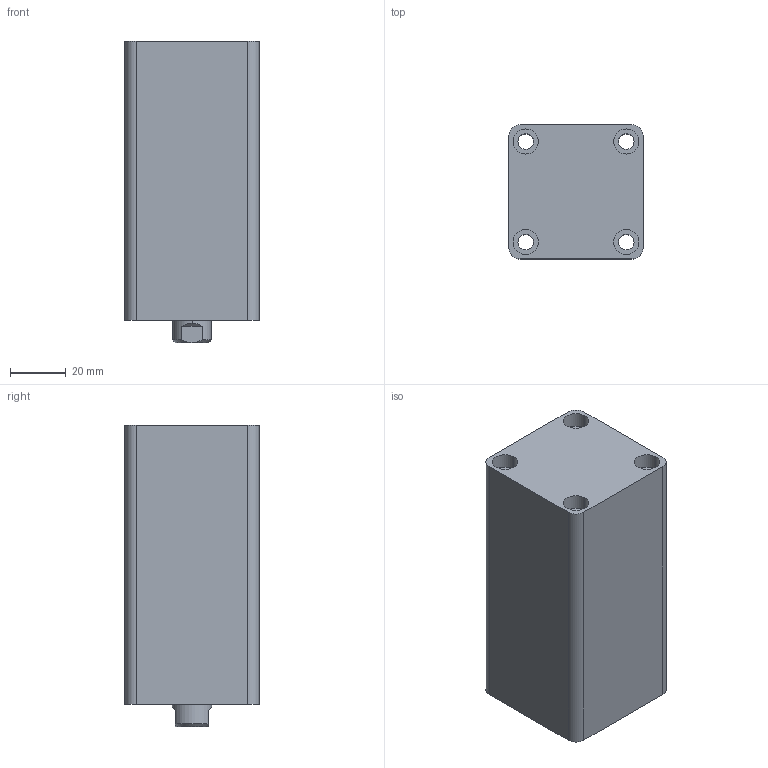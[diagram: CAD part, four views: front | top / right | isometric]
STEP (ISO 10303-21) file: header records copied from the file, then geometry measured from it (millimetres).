
FILE_DESCRIPTION (( 'STEP AP203' ), '1' );
FILE_NAME ('HTB-SD25-55N.STEP', '2019-10-07T06:10:24', ( '微软用户' ), ( '微软中国' ), 'SwSTEP 2.0', 'SolidWorks 2012', '' );
FILE_SCHEMA (( 'CONFIG_CONTROL_DESIGN' ));
Length unit declared in the file: millimetre
Products named in the file (3): HTB-SD25-55N; HTB-SD25-55掛极; HTB-SD25-55N活塞杆
Assembly tree (2 placements, depth 2):
  HTB-SD25-55N
    HTB-SD25-55掛极
    HTB-SD25-55N活塞杆
Bounding box: 48 x 48 x 108 mm (x, y, z)
Volume: 198178.6 mm3; surface area: 44240.2 mm2
Topology: 2 solids, 2 shells, 83 faces, 182 edges, 117 vertices
Faces by surface type: cylinder 42, plane 27, cone 8, torus 6
Entity records: 2653 total; most frequent: DIRECTION 454, CARTESIAN_POINT 429, ORIENTED_EDGE 360, AXIS2_PLACEMENT_3D 194, EDGE_CURVE 180, VERTEX_POINT 117, EDGE_LOOP 107, CIRCLE 106
